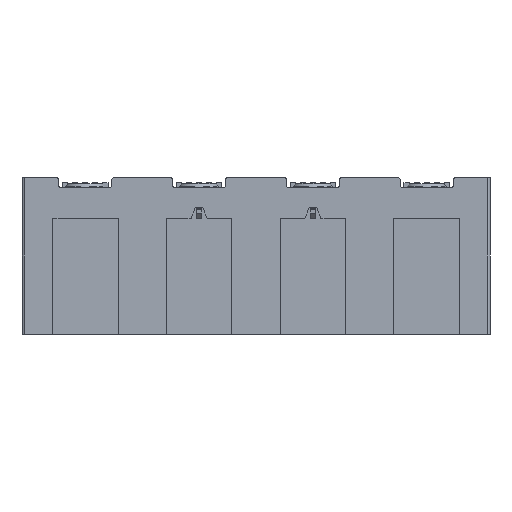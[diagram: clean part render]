
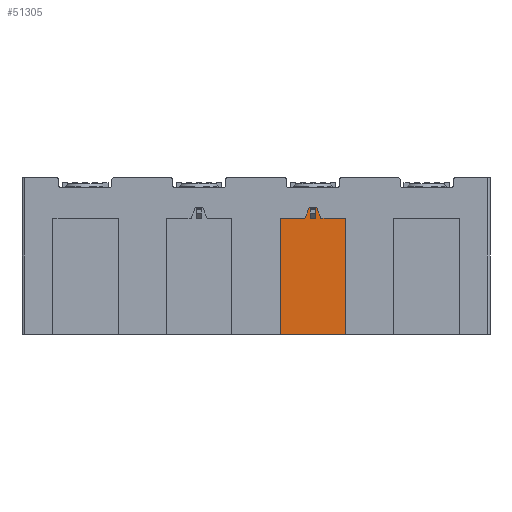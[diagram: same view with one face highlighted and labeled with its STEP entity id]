
A CAD part, front view. The second image highlights one B-rep face of the part: STEP entity #51305.
In plain terms, the highlighted planar face has unit normal (0, -1, 0).
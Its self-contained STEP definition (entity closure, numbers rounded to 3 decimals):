
#721 = CARTESIAN_POINT ( 'NONE',  ( -92.5, -172.5, 55. ) ) ;
#809 = CARTESIAN_POINT ( 'NONE',  ( 19.343, -172.5, 51. ) ) ;
#2861 = ORIENTED_EDGE ( 'NONE', *, *, #11247, .T. ) ;
#3779 = ORIENTED_EDGE ( 'NONE', *, *, #10077, .T. ) ;
#6095 = VERTEX_POINT ( 'NONE', #20944 ) ;
#6338 = CARTESIAN_POINT ( 'NONE',  ( 21.5, -172.5, -350.891 ) ) ;
#8054 = EDGE_LOOP ( 'NONE', ( #37785, #3779, #41619, #18294 ) ) ;
#8491 = VERTEX_POINT ( 'NONE', #51579 ) ;
#8740 = VERTEX_POINT ( 'NONE', #131991 ) ;
#9718 = CARTESIAN_POINT ( 'NONE',  ( 35.5, -172.5, -350.891 ) ) ;
#10077 = EDGE_CURVE ( 'NONE', #48761, #8491, #29729, .T. ) ;
#11247 = EDGE_CURVE ( 'NONE', #129914, #56773, #81990, .T. ) ;
#13690 = CARTESIAN_POINT ( 'NONE',  ( -4.107, -172.5, -5.614 ) ) ;
#13775 = DIRECTION ( 'NONE',  ( -0.383, 0., 0.924 ) ) ;
#14090 = EDGE_CURVE ( 'NONE', #56773, #68945, #121418, .T. ) ;
#14337 = VECTOR ( 'NONE', #39666, 1000. ) ;
#14628 = EDGE_CURVE ( 'NONE', #8491, #85873, #20158, .T. ) ;
#15934 = CARTESIAN_POINT ( 'NONE',  ( -92.5, -172.5, 51. ) ) ;
#17055 = VECTOR ( 'NONE', #13775, 1000. ) ;
#17216 = CARTESIAN_POINT ( 'NONE',  ( 23.5, -172.5, 50.9 ) ) ;
#18267 = DIRECTION ( 'NONE',  ( 1., 0., 0. ) ) ;
#18294 = ORIENTED_EDGE ( 'NONE', *, *, #67053, .F. ) ;
#20158 = LINE ( 'NONE', #111471, #64865 ) ;
#20944 = CARTESIAN_POINT ( 'NONE',  ( 24., -172.5, 55. ) ) ;
#21270 = CARTESIAN_POINT ( 'NONE',  ( -90.5, -172.5, 54.9 ) ) ;
#22312 = CARTESIAN_POINT ( 'NONE',  ( -90.5, -172.5, -350.891 ) ) ;
#22968 = LINE ( 'NONE', #6338, #109270 ) ;
#23178 = PLANE ( 'NONE',  #119643 ) ;
#24940 = CARTESIAN_POINT ( 'NONE',  ( 15.424, -172.5, 75.704 ) ) ;
#25761 = CARTESIAN_POINT ( 'NONE',  ( 21.5, -172.5, 50.9 ) ) ;
#26915 = LINE ( 'NONE', #721, #76370 ) ;
#28608 = VERTEX_POINT ( 'NONE', #51287 ) ;
#29729 = LINE ( 'NONE', #21270, #108072 ) ;
#30582 = CARTESIAN_POINT ( 'NONE',  ( 21.5, -172.5, 54.9 ) ) ;
#31056 = DIRECTION ( 'NONE',  ( 0., 0., -1. ) ) ;
#32596 = DIRECTION ( 'NONE',  ( 0., -1., 0. ) ) ;
#35306 = ORIENTED_EDGE ( 'NONE', *, *, #73098, .F. ) ;
#37785 = ORIENTED_EDGE ( 'NONE', *, *, #76249, .T. ) ;
#39666 = DIRECTION ( 'NONE',  ( 0., 0., 1. ) ) ;
#39849 = EDGE_CURVE ( 'NONE', #72647, #6095, #71378, .T. ) ;
#41619 = ORIENTED_EDGE ( 'NONE', *, *, #14628, .T. ) ;
#42361 = CARTESIAN_POINT ( 'NONE',  ( 35.5, -172.5, 5. ) ) ;
#43150 = VERTEX_POINT ( 'NONE', #25761 ) ;
#43775 = VECTOR ( 'NONE', #18267, 1000. ) ;
#44352 = EDGE_CURVE ( 'NONE', #72647, #68945, #70929, .T. ) ;
#46339 = LINE ( 'NONE', #116364, #52744 ) ;
#47510 = VECTOR ( 'NONE', #97234, 1000. ) ;
#48761 = VERTEX_POINT ( 'NONE', #30582 ) ;
#49371 = ORIENTED_EDGE ( 'NONE', *, *, #39849, .T. ) ;
#51287 = CARTESIAN_POINT ( 'NONE',  ( 9.5, -172.5, 51. ) ) ;
#51305 = ADVANCED_FACE ( 'NONE', ( #120721, #66304 ), #23178, .T. ) ;
#51579 = CARTESIAN_POINT ( 'NONE',  ( 23.5, -172.5, 54.9 ) ) ;
#52744 = VECTOR ( 'NONE', #55131, 1000. ) ;
#55131 = DIRECTION ( 'NONE',  ( 0., 0., -1. ) ) ;
#56681 = CARTESIAN_POINT ( 'NONE',  ( -90.5, -172.5, 50.9 ) ) ;
#56773 = VERTEX_POINT ( 'NONE', #42361 ) ;
#57874 = ORIENTED_EDGE ( 'NONE', *, *, #60785, .T. ) ;
#58653 = ORIENTED_EDGE ( 'NONE', *, *, #14090, .T. ) ;
#60785 = EDGE_CURVE ( 'NONE', #6095, #8740, #26915, .T. ) ;
#63383 = VECTOR ( 'NONE', #84259, 1000. ) ;
#64865 = VECTOR ( 'NONE', #31056, 1000. ) ;
#66304 = FACE_BOUND ( 'NONE', #8054, .T. ) ;
#66474 = DIRECTION ( 'NONE',  ( 1., 0., 0. ) ) ;
#67053 = EDGE_CURVE ( 'NONE', #43150, #85873, #112315, .T. ) ;
#68945 = VERTEX_POINT ( 'NONE', #104661 ) ;
#70929 = LINE ( 'NONE', #120138, #43775 ) ;
#71378 = LINE ( 'NONE', #24940, #17055 ) ;
#71429 = EDGE_CURVE ( 'NONE', #28608, #129914, #46339, .T. ) ;
#72647 = VERTEX_POINT ( 'NONE', #99614 ) ;
#73098 = EDGE_CURVE ( 'NONE', #28608, #115498, #74666, .T. ) ;
#74162 = CARTESIAN_POINT ( 'NONE',  ( 4.5, -172.5, 5. ) ) ;
#74666 = LINE ( 'NONE', #15934, #47510 ) ;
#76249 = EDGE_CURVE ( 'NONE', #43150, #48761, #22968, .T. ) ;
#76370 = VECTOR ( 'NONE', #123587, 1000. ) ;
#79033 = DIRECTION ( 'NONE',  ( 0., 0., 1. ) ) ;
#81990 = LINE ( 'NONE', #74162, #91649 ) ;
#83467 = DIRECTION ( 'NONE',  ( 0., 0., -1. ) ) ;
#84259 = DIRECTION ( 'NONE',  ( -0.383, 0., -0.924 ) ) ;
#85072 = VECTOR ( 'NONE', #66474, 1000. ) ;
#85873 = VERTEX_POINT ( 'NONE', #17216 ) ;
#91649 = VECTOR ( 'NONE', #95612, 1000. ) ;
#92745 = DIRECTION ( 'NONE',  ( 1., 0., 0. ) ) ;
#93354 = EDGE_LOOP ( 'NONE', ( #35306, #120662, #2861, #58653, #102130, #49371, #57874, #99079 ) ) ;
#95612 = DIRECTION ( 'NONE',  ( 1., 0., 0. ) ) ;
#97234 = DIRECTION ( 'NONE',  ( 1., 0., 0. ) ) ;
#99079 = ORIENTED_EDGE ( 'NONE', *, *, #100035, .T. ) ;
#99614 = CARTESIAN_POINT ( 'NONE',  ( 25.657, -172.5, 51. ) ) ;
#100035 = EDGE_CURVE ( 'NONE', #8740, #115498, #108175, .T. ) ;
#102130 = ORIENTED_EDGE ( 'NONE', *, *, #44352, .F. ) ;
#104661 = CARTESIAN_POINT ( 'NONE',  ( 35.5, -172.5, 51. ) ) ;
#108072 = VECTOR ( 'NONE', #92745, 1000. ) ;
#108175 = LINE ( 'NONE', #13690, #63383 ) ;
#109270 = VECTOR ( 'NONE', #79033, 1000. ) ;
#110121 = CARTESIAN_POINT ( 'NONE',  ( 9.5, -172.5, 5. ) ) ;
#111471 = CARTESIAN_POINT ( 'NONE',  ( 23.5, -172.5, -350.891 ) ) ;
#112315 = LINE ( 'NONE', #56681, #85072 ) ;
#115498 = VERTEX_POINT ( 'NONE', #809 ) ;
#116364 = CARTESIAN_POINT ( 'NONE',  ( 9.5, -172.5, -350.891 ) ) ;
#119643 = AXIS2_PLACEMENT_3D ( 'NONE', #22312, #32596, #83467 ) ;
#120138 = CARTESIAN_POINT ( 'NONE',  ( -92.5, -172.5, 51. ) ) ;
#120662 = ORIENTED_EDGE ( 'NONE', *, *, #71429, .T. ) ;
#120721 = FACE_OUTER_BOUND ( 'NONE', #93354, .T. ) ;
#121418 = LINE ( 'NONE', #9718, #14337 ) ;
#123587 = DIRECTION ( 'NONE',  ( -1., 0., 0. ) ) ;
#129914 = VERTEX_POINT ( 'NONE', #110121 ) ;
#131991 = CARTESIAN_POINT ( 'NONE',  ( 21., -172.5, 55. ) ) ;
